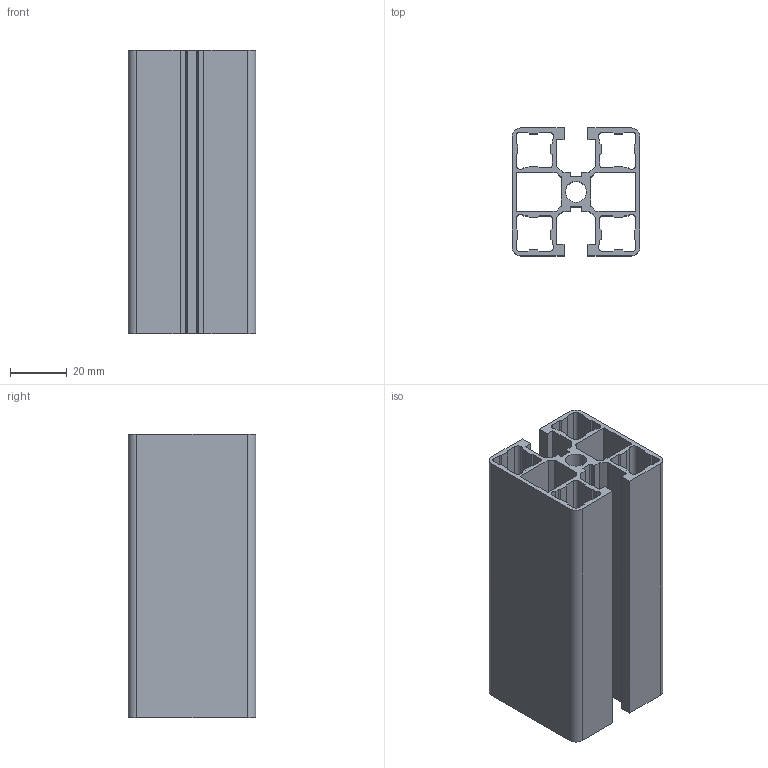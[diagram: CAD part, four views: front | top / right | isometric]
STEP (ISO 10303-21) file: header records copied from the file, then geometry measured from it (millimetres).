
FILE_DESCRIPTION (( 'STEP AP214' ), '1' );
FILE_NAME ('SA02013L.step', '2024-12-03T16:28:55', ( '' ), ( '' ), 'SwSTEP 2.0', 'SolidWorks 2023', '' );
FILE_SCHEMA (( 'AUTOMOTIVE_DESIGN' ));
Length unit declared in the file: millimetre
Products named in the file (1): SA02013L
Bounding box: 45 x 45 x 100 mm (x, y, z)
Volume: 54167.1 mm3; surface area: 61231.9 mm2
Topology: 1 solids, 1 shells, 175 faces, 520 edges, 347 vertices
Faces by surface type: plane 126, cylinder 49
Full cylindrical faces by diameter (mm): 7.45 x1
Entity records: 5877 total; most frequent: CARTESIAN_POINT 1040, ORIENTED_EDGE 1036, DIRECTION 968, EDGE_CURVE 518, VECTOR 420, LINE 420, VERTEX_POINT 346, AXIS2_PLACEMENT_3D 274
